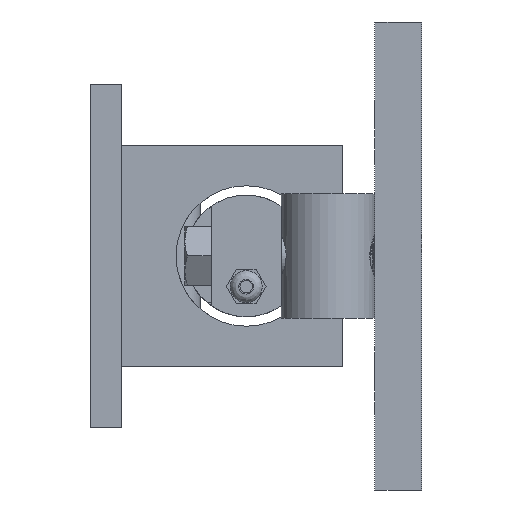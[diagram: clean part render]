
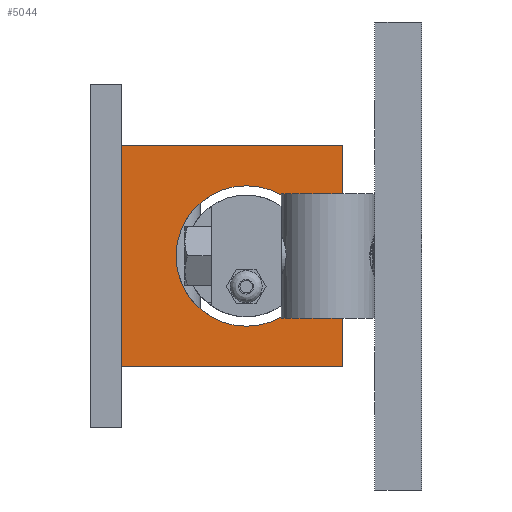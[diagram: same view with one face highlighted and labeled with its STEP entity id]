
A CAD part, left-side view. The second image highlights one B-rep face of the part: STEP entity #5044.
In plain terms, the highlighted planar face has unit normal (-1, 0, 0).
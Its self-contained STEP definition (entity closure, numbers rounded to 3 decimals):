
#195=FACE_BOUND('',#1036,.T.);
#293=PLANE('',#5514);
#423=CIRCLE('',#5513,28.6);
#702=FACE_OUTER_BOUND('',#1035,.T.);
#1035=EDGE_LOOP('',(#4578,#4579,#4580,#4581));
#1036=EDGE_LOOP('',(#4582));
#1561=LINE('',#19776,#1897);
#1578=LINE('',#19966,#1914);
#1579=LINE('',#19968,#1915);
#1580=LINE('',#19969,#1916);
#1897=VECTOR('',#6605,10.);
#1914=VECTOR('',#6658,10.);
#1915=VECTOR('',#6659,10.);
#1916=VECTOR('',#6660,10.);
#2385=VERTEX_POINT('',#19774);
#2386=VERTEX_POINT('',#19775);
#2399=VERTEX_POINT('',#19886);
#2401=VERTEX_POINT('',#19965);
#2402=VERTEX_POINT('',#19967);
#3104=EDGE_CURVE('',#2385,#2386,#1561,.T.);
#3127=EDGE_CURVE('',#2399,#2399,#423,.T.);
#3129=EDGE_CURVE('',#2386,#2401,#1578,.T.);
#3130=EDGE_CURVE('',#2401,#2402,#1579,.T.);
#3131=EDGE_CURVE('',#2402,#2385,#1580,.T.);
#4578=ORIENTED_EDGE('',*,*,#3104,.T.);
#4579=ORIENTED_EDGE('',*,*,#3129,.T.);
#4580=ORIENTED_EDGE('',*,*,#3130,.T.);
#4581=ORIENTED_EDGE('',*,*,#3131,.T.);
#4582=ORIENTED_EDGE('',*,*,#3127,.T.);
#5044=ADVANCED_FACE('',(#702,#195),#293,.F.);
#5513=AXIS2_PLACEMENT_3D('',#19888,#6654,#6655);
#5514=AXIS2_PLACEMENT_3D('',#19964,#6656,#6657);
#6605=DIRECTION('',(0.,0.,-1.));
#6654=DIRECTION('center_axis',(1.,0.,0.));
#6655=DIRECTION('ref_axis',(0.,0.,-1.));
#6656=DIRECTION('center_axis',(1.,0.,0.));
#6657=DIRECTION('ref_axis',(0.,0.,-1.));
#6658=DIRECTION('',(0.,-1.,0.));
#6659=DIRECTION('',(0.,0.,1.));
#6660=DIRECTION('',(0.,1.,0.));
#19774=CARTESIAN_POINT('',(-15.9,122.174,45.));
#19775=CARTESIAN_POINT('',(-15.9,122.174,-45.));
#19776=CARTESIAN_POINT('',(-15.9,122.174,45.));
#19886=CARTESIAN_POINT('',(-15.9,71.374,28.6));
#19888=CARTESIAN_POINT('Origin',(-15.9,71.374,0.));
#19964=CARTESIAN_POINT('Origin',(-15.9,77.174,0.));
#19965=CARTESIAN_POINT('',(-15.9,32.174,-45.));
#19966=CARTESIAN_POINT('',(-15.9,122.174,-45.));
#19967=CARTESIAN_POINT('',(-15.9,32.174,45.));
#19968=CARTESIAN_POINT('',(-15.9,32.174,-45.));
#19969=CARTESIAN_POINT('',(-15.9,32.174,45.));
